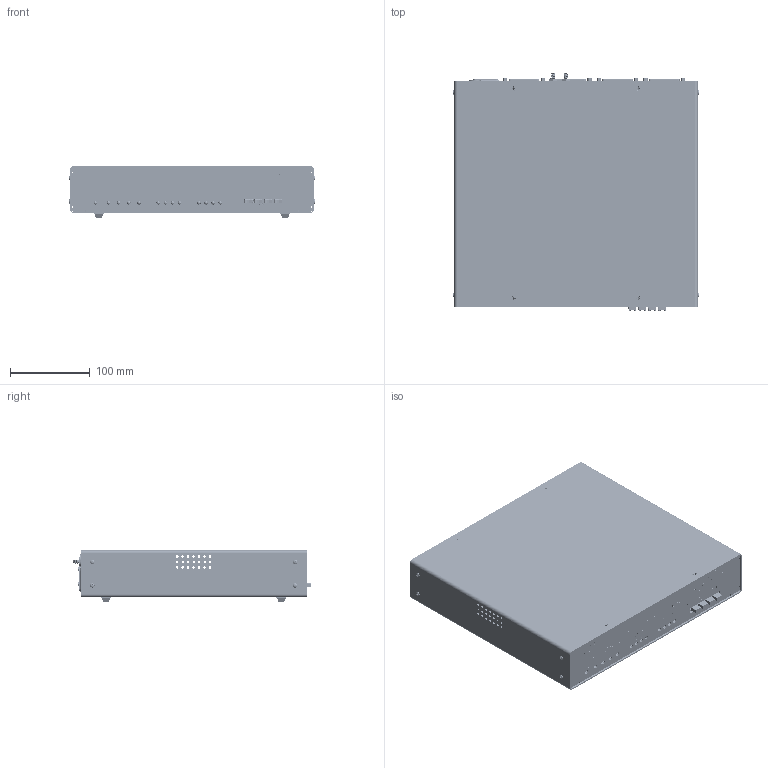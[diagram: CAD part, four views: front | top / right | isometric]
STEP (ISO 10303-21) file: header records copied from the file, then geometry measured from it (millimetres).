
FILE_DESCRIPTION(/* description */ (''),/* implementation_level */ '2;1');
FILE_NAME(/* name */ 'C:/Users/brook/Downloads/Master Assembly v14.step',/* time_stamp */ '2022-05-18T12:38:48-04:00',/* author */ (''),/* organization */ (''),/* preprocessor_version */ 'ST-DEVELOPER v18.1',/* originating_system */ 'Autodesk Translation Framework v10.14.0.1471',/* authorisation */ '');
FILE_SCHEMA (('AUTOMOTIVE_DESIGN { 1 0 10303 214 3 1 1 }'));
Products named in the file (30): Master Assembly; Base; Back Panel; Front Panel; Cover; PCB_less; K42X-B25S-S-A4NJ_rA3; 713025; K22X(HT)-B25S-N_rA3(rA2); 713025 (1); K22X(HT)-B25S-N_rA3(rA2) (1); 713025 (2); K22X(HT)-B25S-N_rA3(rA2) (2); 708002; 710001; 708002 (1); P:/E-Switch Secure/3D_MODELS_STP_FORMAT/PBH2UxxNAGX.stp (1); 708002_1; 708002_2; P:/E-Switch Secure/3D_MODELS_STP_FORMAT/PBH2UxxNAGX.stp; Switch Cap; 91772A106_Passivated 18-8 Stainless Steel Pan Head Phillips Screw; 713008; 708004; Jack Screw for K42X-B25S-S-A4NJ-rA3; 93090A420_Press-Fit Threaded Standoffs; 93580A520_Press-Fit Studs; 96278A411_18-8 Stainless Steel Locknut with External-Tooth Lock Washe
r; SJxx18; 91771A106_Passivated 18-8 Stainless Steel Phillips Flat Head Screw
Assembly tree (88 placements, depth 4):
  Master Assembly
    Base
    Back Panel
    Front Panel
    Cover
    91772A106_Passivated 18-8 Stainless Steel Pan Head Phillips Screw  x8
    PCB_less
      K42X-B25S-S-A4NJ_rA3
      713025
        K22X(HT)-B25S-N_rA3(rA2)
      713025 (1)
        K22X(HT)-B25S-N_rA3(rA2) (1)
      713025 (2)
        K22X(HT)-B25S-N_rA3(rA2) (2)
      710001  x13
      708002
        P:/E-Switch Secure/3D_MODELS_STP_FORMAT/PBH2UxxNAGX.stp
      Switch Cap  x4
      708002 (1)
        P:/E-Switch Secure/3D_MODELS_STP_FORMAT/PBH2UxxNAGX.stp (1)
      708002_1
        P:/E-Switch Secure/3D_MODELS_STP_FORMAT/PBH2UxxNAGX.stp
      708002_2
        P:/E-Switch Secure/3D_MODELS_STP_FORMAT/PBH2UxxNAGX.stp
      91772A106_Passivated 18-8 Stainless Steel Pan Head Phillips Screw  x7
    713008
    708004
    Jack Screw for K42X-B25S-S-A4NJ-rA3  x10
    91771A106_Passivated 18-8 Stainless Steel Phillips Flat Head Screw  x8
    93090A420_Press-Fit Threaded Standoffs  x8
    93580A520_Press-Fit Studs  x2
    96278A411_18-8 Stainless Steel Locknut with External-Tooth Lock Washe
r  x2
    SJxx18  x4
Bounding box: 308.22 x 296.91 x 64.44 mm (x, y, z)
Volume: 579494 mm3; surface area: 707629.9 mm2
Topology: 120 solids, 124 shells, 14564 faces, 38860 edges, 25294 vertices
Faces by surface type: plane 8014, bspline 3444, cylinder 2375, cone 408, torus 234, sphere 89
Full cylindrical faces by diameter (mm): 0.885 x1, 0.925 x1, 1.15 x75, 1.2 x50, 1.4 x4, 1.982 x1, 2.02 x215, 2.271 x20, 2.35 x6, 2.6 x3, 2.76 x4, 2.845 x228, 2.9 x6, 3 x3, 3.1 x8, 3.14 x4, 3.175 x10, 3.4 x4, 3.48 x1, 3.556 x31, 3.795 x24, 3.967 x6, 4.1 x10, 4.191 x8, 4.216 x23, 4.231 x2, 4.45 x13, 4.75 x13, 4.801 x2, 4.826 x34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
Entity records: 414257 total; most frequent: CARTESIAN_POINT 144052, ORIENTED_EDGE 60868, DIRECTION 42998, EDGE_CURVE 30434, LINE 20406, VECTOR 20406, VERTEX_POINT 19795, EDGE_LOOP 12563
